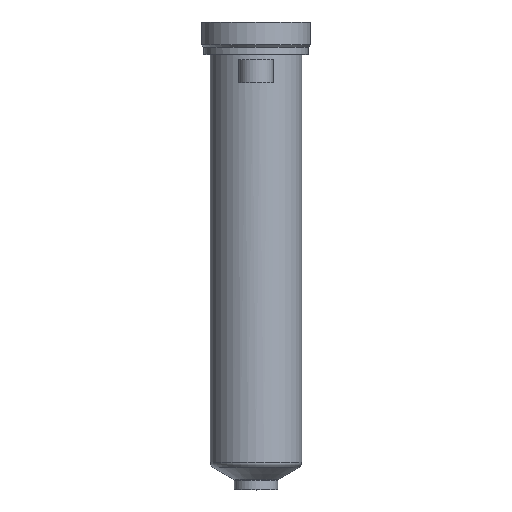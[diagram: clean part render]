
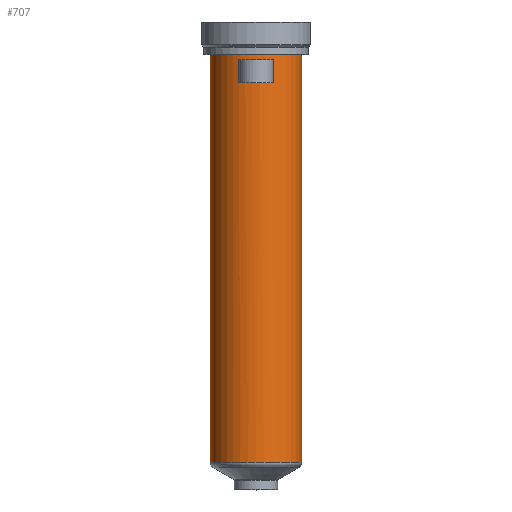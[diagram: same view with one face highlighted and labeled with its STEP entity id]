
A CAD part, top view. The second image highlights one B-rep face of the part: STEP entity #707.
In plain terms, the highlighted cylindrical face has radius 21 mm (diameter 42 mm), a partial arc.
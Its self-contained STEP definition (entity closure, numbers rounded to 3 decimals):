
#199=DIRECTION('',(0.,-1.,0.));
#200=VECTOR('',#199,187.228);
#201=CARTESIAN_POINT('',(21.,0.,0.));
#202=LINE('',#201,#200);
#203=CARTESIAN_POINT('',(0.,-187.228,0.));
#204=DIRECTION('',(0.,1.,0.));
#205=DIRECTION('',(-1.,0.,0.));
#206=AXIS2_PLACEMENT_3D('',#203,#204,#205);
#208=DIRECTION('',(0.,1.,0.));
#209=VECTOR('',#208,187.228);
#210=CARTESIAN_POINT('',(-21.,-187.228,0.));
#211=LINE('',#210,#209);
#212=CARTESIAN_POINT('',(0.,0.,0.));
#213=DIRECTION('',(0.,1.,0.));
#214=DIRECTION('',(-1.,0.,0.));
#215=AXIS2_PLACEMENT_3D('',#212,#213,#214);
#293=DIRECTION('',(0.,-1.,0.));
#294=VECTOR('',#293,10.5);
#295=CARTESIAN_POINT('',(-8.,-2.5,19.416));
#296=LINE('',#295,#294);
#297=CARTESIAN_POINT('',(0.,-13.,0.));
#298=DIRECTION('',(0.,1.,0.));
#299=DIRECTION('',(-0.381,0.,0.925));
#300=AXIS2_PLACEMENT_3D('',#297,#298,#299);
#323=CARTESIAN_POINT('',(0.,-2.5,0.));
#324=DIRECTION('',(0.,-1.,0.));
#325=DIRECTION('',(0.381,0.,0.925));
#326=AXIS2_PLACEMENT_3D('',#323,#324,#325);
#341=DIRECTION('',(0.,-1.,0.));
#342=VECTOR('',#341,10.5);
#343=CARTESIAN_POINT('',(8.,-2.5,19.416));
#344=LINE('',#343,#342);
#402=CARTESIAN_POINT('',(-21.,0.,0.));
#403=CARTESIAN_POINT('',(21.,0.,0.));
#404=VERTEX_POINT('',#402);
#405=VERTEX_POINT('',#403);
#414=CARTESIAN_POINT('',(-8.,-2.5,19.416));
#415=VERTEX_POINT('',#414);
#416=CARTESIAN_POINT('',(8.,-2.5,19.416));
#417=VERTEX_POINT('',#416);
#454=CARTESIAN_POINT('',(21.,-187.228,0.));
#455=VERTEX_POINT('',#454);
#464=CARTESIAN_POINT('',(-21.,-187.228,0.));
#465=VERTEX_POINT('',#464);
#466=CARTESIAN_POINT('',(-8.,-13.,19.416));
#467=CARTESIAN_POINT('',(8.,-13.,19.416));
#468=VERTEX_POINT('',#466);
#469=VERTEX_POINT('',#467);
#685=CARTESIAN_POINT('',(0.,16.4,0.));
#686=DIRECTION('',(0.,-1.,0.));
#687=DIRECTION('',(-1.,0.,0.));
#688=AXIS2_PLACEMENT_3D('',#685,#686,#687);
#689=CYLINDRICAL_SURFACE('',#688,21.);
#690=ORIENTED_EDGE('',*,*,#679,.T.);
#692=ORIENTED_EDGE('',*,*,#691,.F.);
#693=ORIENTED_EDGE('',*,*,#675,.T.);
#694=ORIENTED_EDGE('',*,*,#665,.T.);
#695=EDGE_LOOP('',(#690,#692,#693,#694));
#696=FACE_OUTER_BOUND('',#695,.F.);
#698=ORIENTED_EDGE('',*,*,#697,.T.);
#700=ORIENTED_EDGE('',*,*,#699,.T.);
#702=ORIENTED_EDGE('',*,*,#701,.F.);
#704=ORIENTED_EDGE('',*,*,#703,.T.);
#705=EDGE_LOOP('',(#698,#700,#702,#704));
#706=FACE_BOUND('',#705,.F.);
#707=ADVANCED_FACE('',(#696,#706),#689,.T.);
#207=CIRCLE('',#206,21.);
#216=CIRCLE('',#215,21.);
#301=CIRCLE('',#300,21.);
#327=CIRCLE('',#326,21.);
#665=EDGE_CURVE('',#404,#405,#216,.T.);
#675=EDGE_CURVE('',#465,#404,#211,.T.);
#679=EDGE_CURVE('',#405,#455,#202,.T.);
#691=EDGE_CURVE('',#465,#455,#207,.T.);
#697=EDGE_CURVE('',#415,#468,#296,.T.);
#699=EDGE_CURVE('',#468,#469,#301,.T.);
#701=EDGE_CURVE('',#417,#469,#344,.T.);
#703=EDGE_CURVE('',#417,#415,#327,.T.);
